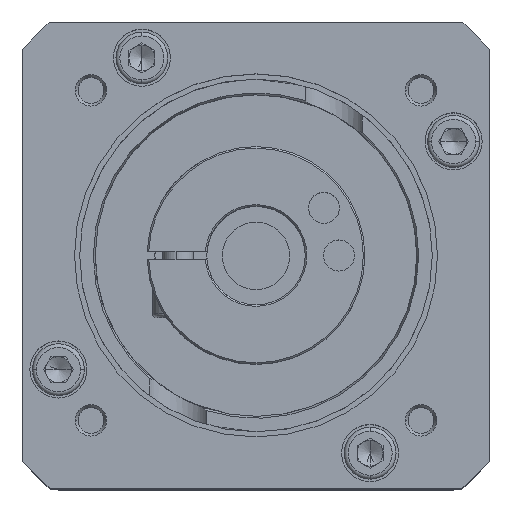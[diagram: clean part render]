
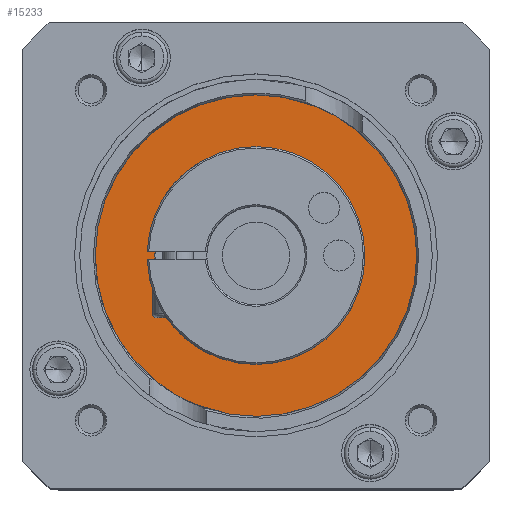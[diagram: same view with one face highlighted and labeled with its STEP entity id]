
A CAD part, top view. The second image highlights one B-rep face of the part: STEP entity #15233.
In plain terms, the highlighted planar face has unit normal (0, 0, 1).
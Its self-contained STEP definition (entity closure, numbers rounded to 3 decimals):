
#1462 = VERTEX_POINT ( 'NONE', #22271 ) ;
#1575 = CIRCLE ( 'NONE', #25945, 31. ) ;
#1858 = CARTESIAN_POINT ( 'NONE',  ( 9.388, -9.237, 88.75 ) ) ;
#2544 = CARTESIAN_POINT ( 'NONE',  ( 9.388, -9.237, 88.75 ) ) ;
#2891 = CARTESIAN_POINT ( 'NONE',  ( 40.388, -9.237, 88.75 ) ) ;
#2921 = CIRCLE ( 'NONE', #21878, 17.5 ) ;
#4587 = DIRECTION ( 'NONE',  ( 1., 0., 0. ) ) ;
#4787 = EDGE_CURVE ( 'NONE', #1462, #16112, #9302, .T. ) ;
#7032 = AXIS2_PLACEMENT_3D ( 'NONE', #14880, #32109, #49304 ) ;
#9302 = CIRCLE ( 'NONE', #27387, 31. ) ;
#11077 = VERTEX_POINT ( 'NONE', #43202 ) ;
#11178 = DIRECTION ( 'NONE',  ( 0., 0., 1. ) ) ;
#12672 = EDGE_CURVE ( 'NONE', #11077, #17580, #2921, .T. ) ;
#14880 = CARTESIAN_POINT ( 'NONE',  ( 9.388, -9.237, 88.75 ) ) ;
#14977 = DIRECTION ( 'NONE',  ( 0., 0., 1. ) ) ;
#15233 = ADVANCED_FACE ( 'NONE', ( #36728, #28268 ), #45181, .T. ) ;
#15246 = DIRECTION ( 'NONE',  ( 1., 0., 0. ) ) ;
#16112 = VERTEX_POINT ( 'NONE', #2891 ) ;
#16664 = ORIENTED_EDGE ( 'NONE', *, *, #12672, .F. ) ;
#16692 = CARTESIAN_POINT ( 'NONE',  ( 9.388, -9.237, 88.75 ) ) ;
#17580 = VERTEX_POINT ( 'NONE', #38395 ) ;
#18743 = CIRCLE ( 'NONE', #7032, 17.5 ) ;
#19965 = ORIENTED_EDGE ( 'NONE', *, *, #4787, .T. ) ;
#21878 = AXIS2_PLACEMENT_3D ( 'NONE', #1858, #11178, #41369 ) ;
#22271 = CARTESIAN_POINT ( 'NONE',  ( -21.612, -9.237, 88.75 ) ) ;
#25945 = AXIS2_PLACEMENT_3D ( 'NONE', #16692, #51669, #42086 ) ;
#26776 = ORIENTED_EDGE ( 'NONE', *, *, #51978, .T. ) ;
#27387 = AXIS2_PLACEMENT_3D ( 'NONE', #43809, #39859, #4587 ) ;
#28268 = FACE_OUTER_BOUND ( 'NONE', #31368, .T. ) ;
#28780 = EDGE_LOOP ( 'NONE', ( #16664, #31420 ) ) ;
#31368 = EDGE_LOOP ( 'NONE', ( #19965, #26776 ) ) ;
#31420 = ORIENTED_EDGE ( 'NONE', *, *, #52652, .F. ) ;
#32109 = DIRECTION ( 'NONE',  ( 0., 0., 1. ) ) ;
#34535 = AXIS2_PLACEMENT_3D ( 'NONE', #2544, #14977, #15246 ) ;
#36728 = FACE_BOUND ( 'NONE', #28780, .T. ) ;
#38395 = CARTESIAN_POINT ( 'NONE',  ( 26.888, -9.237, 88.75 ) ) ;
#39859 = DIRECTION ( 'NONE',  ( 0., 0., 1. ) ) ;
#41369 = DIRECTION ( 'NONE',  ( 1., 0., 0. ) ) ;
#42086 = DIRECTION ( 'NONE',  ( 1., 0., 0. ) ) ;
#43202 = CARTESIAN_POINT ( 'NONE',  ( -8.112, -9.237, 88.75 ) ) ;
#43809 = CARTESIAN_POINT ( 'NONE',  ( 9.388, -9.237, 88.75 ) ) ;
#45181 = PLANE ( 'NONE',  #34535 ) ;
#49304 = DIRECTION ( 'NONE',  ( 1., 0., 0. ) ) ;
#51669 = DIRECTION ( 'NONE',  ( 0., 0., 1. ) ) ;
#51978 = EDGE_CURVE ( 'NONE', #16112, #1462, #1575, .T. ) ;
#52652 = EDGE_CURVE ( 'NONE', #17580, #11077, #18743, .T. ) ;
